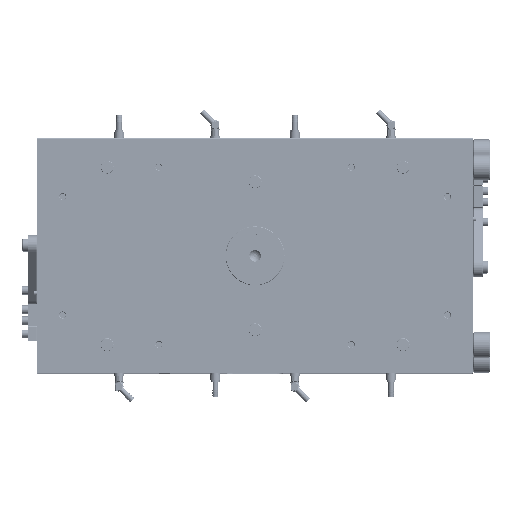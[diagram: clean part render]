
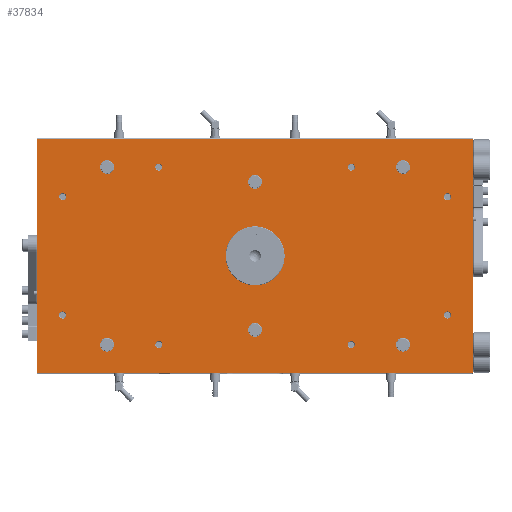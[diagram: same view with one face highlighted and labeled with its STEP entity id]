
A CAD part, top view. The second image highlights one B-rep face of the part: STEP entity #37834.
In plain terms, the highlighted planar face has unit normal (0, 0, 1).
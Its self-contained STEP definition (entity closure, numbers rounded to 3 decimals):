
#37834=ADVANCED_FACE('',(#95433,#95434,#95435,#95436,#95437,#95438,#95439,
#95440,#95441,#95442,#95443,#95444,#95445,#95446,#95447,#95448),#50548,.T.);
#50548=PLANE('',#264002);
#63194=LINE('',#412807,#80237);
#63195=LINE('',#412810,#80238);
#63196=LINE('',#412812,#80239);
#63197=LINE('',#412814,#80240);
#80237=VECTOR('',#311822,1.);
#80238=VECTOR('',#311823,1.);
#80239=VECTOR('',#311824,1.);
#80240=VECTOR('',#311825,1.);
#95433=FACE_BOUND('',#114553,.T.);
#95434=FACE_BOUND('',#114554,.T.);
#95435=FACE_BOUND('',#114555,.T.);
#95436=FACE_BOUND('',#114556,.T.);
#95437=FACE_BOUND('',#114557,.T.);
#95438=FACE_BOUND('',#114558,.T.);
#95439=FACE_BOUND('',#114559,.T.);
#95440=FACE_BOUND('',#114560,.T.);
#95441=FACE_BOUND('',#114561,.T.);
#95442=FACE_BOUND('',#114562,.T.);
#95443=FACE_BOUND('',#114563,.T.);
#95444=FACE_BOUND('',#114564,.T.);
#95445=FACE_BOUND('',#114565,.T.);
#95446=FACE_BOUND('',#114566,.T.);
#95447=FACE_BOUND('',#114567,.T.);
#95448=FACE_BOUND('',#114568,.T.);
#114553=EDGE_LOOP('',(#156214));
#114554=EDGE_LOOP('',(#156215));
#114555=EDGE_LOOP('',(#156216));
#114556=EDGE_LOOP('',(#156217));
#114557=EDGE_LOOP('',(#156218));
#114558=EDGE_LOOP('',(#156219));
#114559=EDGE_LOOP('',(#156220));
#114560=EDGE_LOOP('',(#156221));
#114561=EDGE_LOOP('',(#156222));
#114562=EDGE_LOOP('',(#156223));
#114563=EDGE_LOOP('',(#156224));
#114564=EDGE_LOOP('',(#156225));
#114565=EDGE_LOOP('',(#156226,#156227,#156228,#156229));
#114566=EDGE_LOOP('',(#156230));
#114567=EDGE_LOOP('',(#156231));
#114568=EDGE_LOOP('',(#156232));
#156214=ORIENTED_EDGE('',*,*,#224453,.T.);
#156215=ORIENTED_EDGE('',*,*,#224454,.T.);
#156216=ORIENTED_EDGE('',*,*,#224455,.T.);
#156217=ORIENTED_EDGE('',*,*,#224456,.F.);
#156218=ORIENTED_EDGE('',*,*,#224457,.F.);
#156219=ORIENTED_EDGE('',*,*,#224458,.F.);
#156220=ORIENTED_EDGE('',*,*,#224459,.F.);
#156221=ORIENTED_EDGE('',*,*,#224460,.F.);
#156222=ORIENTED_EDGE('',*,*,#224461,.F.);
#156223=ORIENTED_EDGE('',*,*,#224462,.F.);
#156224=ORIENTED_EDGE('',*,*,#224463,.F.);
#156225=ORIENTED_EDGE('',*,*,#224464,.T.);
#156226=ORIENTED_EDGE('',*,*,#224465,.T.);
#156227=ORIENTED_EDGE('',*,*,#224466,.T.);
#156228=ORIENTED_EDGE('',*,*,#224467,.T.);
#156229=ORIENTED_EDGE('',*,*,#224468,.T.);
#156230=ORIENTED_EDGE('',*,*,#224469,.T.);
#156231=ORIENTED_EDGE('',*,*,#224470,.T.);
#156232=ORIENTED_EDGE('',*,*,#224471,.T.);
#198469=VERTEX_POINT('',#412784);
#198470=VERTEX_POINT('',#412786);
#198471=VERTEX_POINT('',#412788);
#198472=VERTEX_POINT('',#412790);
#198473=VERTEX_POINT('',#412792);
#198474=VERTEX_POINT('',#412794);
#198475=VERTEX_POINT('',#412796);
#198476=VERTEX_POINT('',#412798);
#198477=VERTEX_POINT('',#412800);
#198478=VERTEX_POINT('',#412802);
#198479=VERTEX_POINT('',#412804);
#198480=VERTEX_POINT('',#412806);
#198481=VERTEX_POINT('',#412808);
#198482=VERTEX_POINT('',#412809);
#198483=VERTEX_POINT('',#412811);
#198484=VERTEX_POINT('',#412813);
#198485=VERTEX_POINT('',#412816);
#198486=VERTEX_POINT('',#412818);
#198487=VERTEX_POINT('',#412820);
#224453=EDGE_CURVE('',#198469,#198469,#245528,.T.);
#224454=EDGE_CURVE('',#198470,#198470,#245529,.T.);
#224455=EDGE_CURVE('',#198471,#198471,#245530,.T.);
#224456=EDGE_CURVE('',#198472,#198472,#245531,.T.);
#224457=EDGE_CURVE('',#198473,#198473,#245532,.T.);
#224458=EDGE_CURVE('',#198474,#198474,#245533,.T.);
#224459=EDGE_CURVE('',#198475,#198475,#245534,.T.);
#224460=EDGE_CURVE('',#198476,#198476,#245535,.T.);
#224461=EDGE_CURVE('',#198477,#198477,#245536,.T.);
#224462=EDGE_CURVE('',#198478,#198478,#245537,.T.);
#224463=EDGE_CURVE('',#198479,#198479,#245538,.T.);
#224464=EDGE_CURVE('',#198480,#198480,#245539,.T.);
#224465=EDGE_CURVE('',#198481,#198482,#63194,.T.);
#224466=EDGE_CURVE('',#198482,#198483,#63195,.T.);
#224467=EDGE_CURVE('',#198483,#198484,#63196,.T.);
#224468=EDGE_CURVE('',#198484,#198481,#63197,.T.);
#224469=EDGE_CURVE('',#198485,#198485,#245540,.T.);
#224470=EDGE_CURVE('',#198486,#198486,#245541,.T.);
#224471=EDGE_CURVE('',#198487,#198487,#245542,.T.);
#245528=CIRCLE('',#263987,0.469);
#245529=CIRCLE('',#263988,0.469);
#245530=CIRCLE('',#263989,0.469);
#245531=CIRCLE('',#263990,0.242);
#245532=CIRCLE('',#263991,0.242);
#245533=CIRCLE('',#263992,0.242);
#245534=CIRCLE('',#263993,0.242);
#245535=CIRCLE('',#263994,0.242);
#245536=CIRCLE('',#263995,0.242);
#245537=CIRCLE('',#263996,0.242);
#245538=CIRCLE('',#263997,0.242);
#245539=CIRCLE('',#263998,2.);
#245540=CIRCLE('',#263999,0.469);
#245541=CIRCLE('',#264000,0.469);
#245542=CIRCLE('',#264001,0.469);
#263987=AXIS2_PLACEMENT_3D('',#412783,#311798,#311799);
#263988=AXIS2_PLACEMENT_3D('',#412785,#311800,#311801);
#263989=AXIS2_PLACEMENT_3D('',#412787,#311802,#311803);
#263990=AXIS2_PLACEMENT_3D('',#412789,#311804,#311805);
#263991=AXIS2_PLACEMENT_3D('',#412791,#311806,#311807);
#263992=AXIS2_PLACEMENT_3D('',#412793,#311808,#311809);
#263993=AXIS2_PLACEMENT_3D('',#412795,#311810,#311811);
#263994=AXIS2_PLACEMENT_3D('',#412797,#311812,#311813);
#263995=AXIS2_PLACEMENT_3D('',#412799,#311814,#311815);
#263996=AXIS2_PLACEMENT_3D('',#412801,#311816,#311817);
#263997=AXIS2_PLACEMENT_3D('',#412803,#311818,#311819);
#263998=AXIS2_PLACEMENT_3D('',#412805,#311820,#311821);
#263999=AXIS2_PLACEMENT_3D('',#412815,#311826,#311827);
#264000=AXIS2_PLACEMENT_3D('',#412817,#311828,#311829);
#264001=AXIS2_PLACEMENT_3D('',#412819,#311830,#311831);
#264002=AXIS2_PLACEMENT_3D('',#412821,#311832,#311833);
#311798=DIRECTION('',(0.,0.,-1.));
#311799=DIRECTION('',(1.,0.,0.));
#311800=DIRECTION('',(0.,0.,-1.));
#311801=DIRECTION('',(1.,0.,0.));
#311802=DIRECTION('',(0.,0.,-1.));
#311803=DIRECTION('',(1.,0.,0.));
#311804=DIRECTION('',(0.,0.,1.));
#311805=DIRECTION('',(1.,0.,0.));
#311806=DIRECTION('',(0.,0.,1.));
#311807=DIRECTION('',(1.,0.,0.));
#311808=DIRECTION('',(0.,0.,1.));
#311809=DIRECTION('',(1.,0.,0.));
#311810=DIRECTION('',(0.,0.,1.));
#311811=DIRECTION('',(1.,0.,0.));
#311812=DIRECTION('',(0.,0.,1.));
#311813=DIRECTION('',(1.,0.,0.));
#311814=DIRECTION('',(0.,0.,1.));
#311815=DIRECTION('',(1.,0.,0.));
#311816=DIRECTION('',(0.,0.,1.));
#311817=DIRECTION('',(1.,0.,0.));
#311818=DIRECTION('',(0.,0.,1.));
#311819=DIRECTION('',(1.,0.,0.));
#311820=DIRECTION('',(0.,0.,-1.));
#311821=DIRECTION('',(-1.,0.,0.));
#311822=DIRECTION('',(1.,0.,0.));
#311823=DIRECTION('',(0.,1.,0.));
#311824=DIRECTION('',(-1.,0.,0.));
#311825=DIRECTION('',(0.,-1.,0.));
#311826=DIRECTION('',(0.,0.,-1.));
#311827=DIRECTION('',(1.,0.,0.));
#311828=DIRECTION('',(0.,0.,-1.));
#311829=DIRECTION('',(1.,0.,0.));
#311830=DIRECTION('',(0.,0.,-1.));
#311831=DIRECTION('',(1.,0.,0.));
#311832=DIRECTION('',(0.,0.,1.));
#311833=DIRECTION('',(1.,0.,0.));
#412783=CARTESIAN_POINT('',(10.,-6.,4.752));
#412784=CARTESIAN_POINT('',(10.469,-6.,4.752));
#412785=CARTESIAN_POINT('',(-10.,6.,4.752));
#412786=CARTESIAN_POINT('',(-9.531,6.,4.752));
#412787=CARTESIAN_POINT('',(10.,6.,4.752));
#412788=CARTESIAN_POINT('',(10.469,6.,4.752));
#412789=CARTESIAN_POINT('',(-6.5,-6.,4.752));
#412790=CARTESIAN_POINT('',(-6.259,-6.,4.752));
#412791=CARTESIAN_POINT('',(6.5,-6.,4.752));
#412792=CARTESIAN_POINT('',(6.742,-6.,4.752));
#412793=CARTESIAN_POINT('',(6.5,6.,4.752));
#412794=CARTESIAN_POINT('',(6.742,6.,4.752));
#412795=CARTESIAN_POINT('',(-6.5,6.,4.752));
#412796=CARTESIAN_POINT('',(-6.259,6.,4.752));
#412797=CARTESIAN_POINT('',(-13.,-4.,4.752));
#412798=CARTESIAN_POINT('',(-12.759,-4.,4.752));
#412799=CARTESIAN_POINT('',(-13.,4.,4.752));
#412800=CARTESIAN_POINT('',(-12.759,4.,4.752));
#412801=CARTESIAN_POINT('',(13.,4.,4.752));
#412802=CARTESIAN_POINT('',(13.242,4.,4.752));
#412803=CARTESIAN_POINT('',(13.,-4.,4.752));
#412804=CARTESIAN_POINT('',(13.242,-4.,4.752));
#412805=CARTESIAN_POINT('',(0.,0.,4.752));
#412806=CARTESIAN_POINT('',(-2.,0.,4.752));
#412807=CARTESIAN_POINT('',(14.75,-7.918,4.752));
#412808=CARTESIAN_POINT('',(-14.73,-7.918,4.752));
#412809=CARTESIAN_POINT('',(14.73,-7.918,4.752));
#412810=CARTESIAN_POINT('',(14.73,7.938,4.752));
#412811=CARTESIAN_POINT('',(14.73,7.918,4.752));
#412812=CARTESIAN_POINT('',(14.75,7.918,4.752));
#412813=CARTESIAN_POINT('',(-14.73,7.918,4.752));
#412814=CARTESIAN_POINT('',(-14.73,-7.938,4.752));
#412815=CARTESIAN_POINT('',(0.,5.,4.752));
#412816=CARTESIAN_POINT('',(0.469,5.,4.752));
#412817=CARTESIAN_POINT('',(0.,-5.,4.752));
#412818=CARTESIAN_POINT('',(0.469,-5.,4.752));
#412819=CARTESIAN_POINT('',(-10.,-6.,4.752));
#412820=CARTESIAN_POINT('',(-9.531,-6.,4.752));
#412821=CARTESIAN_POINT('',(14.75,-7.938,4.752));
